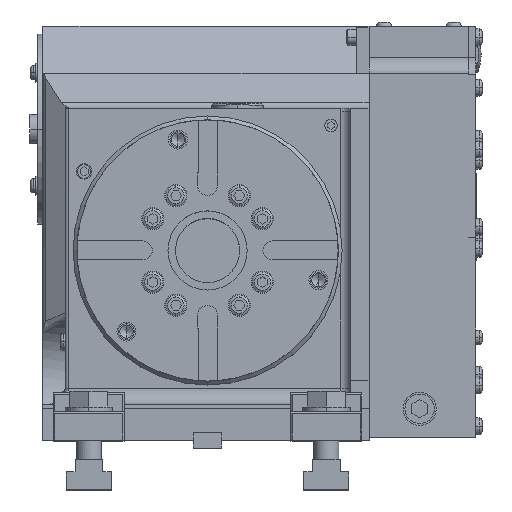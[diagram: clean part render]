
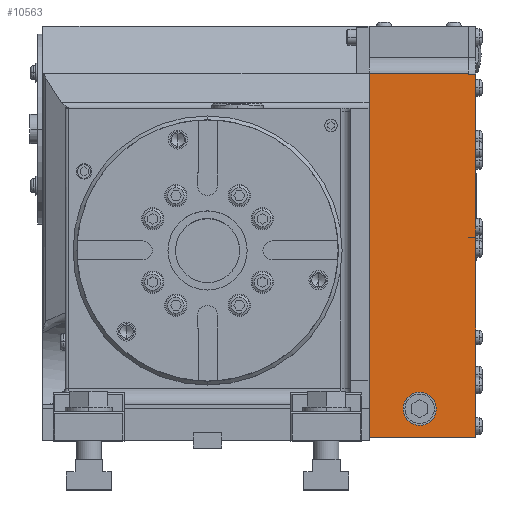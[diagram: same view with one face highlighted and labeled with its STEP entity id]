
A CAD part, top view. The second image highlights one B-rep face of the part: STEP entity #10563.
In plain terms, the highlighted planar face has unit normal (0, 0, 1) as drawn and (-1, 0, 0) by its records, which use the part's own axes.
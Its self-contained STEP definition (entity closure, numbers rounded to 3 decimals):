
#152 = DIRECTION ( 'NONE',  ( 0., 0., -1. ) ) ;
#240 = DIRECTION ( 'NONE',  ( 0., 0., -1. ) ) ;
#788 = DIRECTION ( 'NONE',  ( 0., -1., 0. ) ) ;
#1292 = DIRECTION ( 'NONE',  ( 0., -1., 0. ) ) ;
#1947 = VERTEX_POINT ( 'NONE', #65059 ) ;
#2117 = CARTESIAN_POINT ( 'NONE',  ( 0., 230., 63. ) ) ;
#3182 = EDGE_CURVE ( 'NONE', #46673, #73334, #80541, .T. ) ;
#3261 = VECTOR ( 'NONE', #28660, 1000. ) ;
#3974 = VERTEX_POINT ( 'NONE', #4523 ) ;
#4049 = DIRECTION ( 'NONE',  ( 0., -1., 0. ) ) ;
#4523 = CARTESIAN_POINT ( 'NONE',  ( 0., 7.522, 32. ) ) ;
#5673 = VERTEX_POINT ( 'NONE', #77223 ) ;
#6101 = CIRCLE ( 'NONE', #13848, 10.478 ) ;
#6579 = CARTESIAN_POINT ( 'NONE',  ( 0., 229., 67.5 ) ) ;
#7295 = VECTOR ( 'NONE', #82437, 1000. ) ;
#8398 = ORIENTED_EDGE ( 'NONE', *, *, #19177, .F. ) ;
#8683 = EDGE_CURVE ( 'NONE', #46673, #5673, #48647, .T. ) ;
#10354 = VECTOR ( 'NONE', #53273, 1000. ) ;
#10563 = ADVANCED_FACE ( 'NONE', ( #71804, #73954 ), #78452, .F. ) ;
#11609 = VERTEX_POINT ( 'NONE', #18242 ) ;
#11948 = CARTESIAN_POINT ( 'NONE',  ( 0., 18., 32. ) ) ;
#13059 = CARTESIAN_POINT ( 'NONE',  ( 0., 0., 63. ) ) ;
#13848 = AXIS2_PLACEMENT_3D ( 'NONE', #83763, #42366, #788 ) ;
#15802 = CARTESIAN_POINT ( 'NONE',  ( 0., 230., 63. ) ) ;
#15993 = EDGE_CURVE ( 'NONE', #3974, #85804, #6101, .T. ) ;
#16391 = EDGE_CURVE ( 'NONE', #30572, #49901, #47274, .T. ) ;
#16806 = VERTEX_POINT ( 'NONE', #50727 ) ;
#17242 = LINE ( 'NONE', #64139, #84344 ) ;
#17722 = LINE ( 'NONE', #42831, #70817 ) ;
#18242 = CARTESIAN_POINT ( 'NONE',  ( 0., 230., 0. ) ) ;
#19012 = DIRECTION ( 'NONE',  ( 0., -1., 0. ) ) ;
#19177 = EDGE_CURVE ( 'NONE', #85804, #3974, #77961, .T. ) ;
#19414 = CARTESIAN_POINT ( 'NONE',  ( 0., 0., 0. ) ) ;
#19507 = EDGE_CURVE ( 'NONE', #27289, #11609, #17242, .T. ) ;
#21742 = LINE ( 'NONE', #56285, #3261 ) ;
#23351 = EDGE_LOOP ( 'NONE', ( #40511, #71316, #71856, #29800, #40042, #80168, #25042, #57462, #23914, #58763 ) ) ;
#23914 = ORIENTED_EDGE ( 'NONE', *, *, #81055, .F. ) ;
#25042 = ORIENTED_EDGE ( 'NONE', *, *, #3182, .F. ) ;
#25572 = EDGE_CURVE ( 'NONE', #16806, #1947, #17722, .T. ) ;
#25800 = LINE ( 'NONE', #13059, #7295 ) ;
#26747 = EDGE_CURVE ( 'NONE', #11609, #77448, #21742, .T. ) ;
#27289 = VERTEX_POINT ( 'NONE', #36801 ) ;
#28053 = VECTOR ( 'NONE', #34274, 1000. ) ;
#28660 = DIRECTION ( 'NONE',  ( 0., -1., 0. ) ) ;
#29409 = EDGE_CURVE ( 'NONE', #49901, #77448, #25800, .T. ) ;
#29800 = ORIENTED_EDGE ( 'NONE', *, *, #77573, .T. ) ;
#30572 = VERTEX_POINT ( 'NONE', #54516 ) ;
#34274 = DIRECTION ( 'NONE',  ( 0., 0., -1. ) ) ;
#36625 = LINE ( 'NONE', #15802, #73460 ) ;
#36801 = CARTESIAN_POINT ( 'NONE',  ( 0., 230., 63. ) ) ;
#37018 = DIRECTION ( 'NONE',  ( 1., 0., 0. ) ) ;
#38635 = CARTESIAN_POINT ( 'NONE',  ( 0., 229., 67.5 ) ) ;
#39116 = AXIS2_PLACEMENT_3D ( 'NONE', #11948, #60554, #19012 ) ;
#40042 = ORIENTED_EDGE ( 'NONE', *, *, #25572, .F. ) ;
#40511 = ORIENTED_EDGE ( 'NONE', *, *, #26747, .T. ) ;
#41344 = AXIS2_PLACEMENT_3D ( 'NONE', #2117, #37018, #85375 ) ;
#41819 = CARTESIAN_POINT ( 'NONE',  ( 0., 126., 67.5 ) ) ;
#42366 = DIRECTION ( 'NONE',  ( -1., 0., 0. ) ) ;
#42831 = CARTESIAN_POINT ( 'NONE',  ( 0., 230., 63. ) ) ;
#43736 = VECTOR ( 'NONE', #4049, 1000. ) ;
#44860 = EDGE_LOOP ( 'NONE', ( #54876, #8398 ) ) ;
#45824 = CARTESIAN_POINT ( 'NONE',  ( 0., 126.5, 67.5 ) ) ;
#46673 = VERTEX_POINT ( 'NONE', #64812 ) ;
#47274 = LINE ( 'NONE', #80709, #10354 ) ;
#48647 = LINE ( 'NONE', #6579, #28053 ) ;
#48652 = CARTESIAN_POINT ( 'NONE',  ( 0., 126.5, 67.5 ) ) ;
#49901 = VERTEX_POINT ( 'NONE', #53148 ) ;
#50727 = CARTESIAN_POINT ( 'NONE',  ( 0., 126.5, 63. ) ) ;
#52864 = VECTOR ( 'NONE', #240, 1000. ) ;
#53148 = CARTESIAN_POINT ( 'NONE',  ( 0., 0., 67.5 ) ) ;
#53273 = DIRECTION ( 'NONE',  ( 0., -1., 0. ) ) ;
#54516 = CARTESIAN_POINT ( 'NONE',  ( 0., 126., 67.5 ) ) ;
#54876 = ORIENTED_EDGE ( 'NONE', *, *, #15993, .F. ) ;
#56285 = CARTESIAN_POINT ( 'NONE',  ( 0., 230., 0. ) ) ;
#57152 = DIRECTION ( 'NONE',  ( 0., 0., -1. ) ) ;
#57462 = ORIENTED_EDGE ( 'NONE', *, *, #8683, .T. ) ;
#58763 = ORIENTED_EDGE ( 'NONE', *, *, #19507, .T. ) ;
#60554 = DIRECTION ( 'NONE',  ( -1., 0., 0. ) ) ;
#63484 = CARTESIAN_POINT ( 'NONE',  ( 0., 28.477, 32. ) ) ;
#64139 = CARTESIAN_POINT ( 'NONE',  ( 0., 230., 63. ) ) ;
#64812 = CARTESIAN_POINT ( 'NONE',  ( 0., 229., 67.5 ) ) ;
#65059 = CARTESIAN_POINT ( 'NONE',  ( 0., 126., 63. ) ) ;
#70817 = VECTOR ( 'NONE', #1292, 1000. ) ;
#71229 = LINE ( 'NONE', #41819, #52864 ) ;
#71275 = DIRECTION ( 'NONE',  ( 0., -1., 0. ) ) ;
#71316 = ORIENTED_EDGE ( 'NONE', *, *, #29409, .F. ) ;
#71804 = FACE_BOUND ( 'NONE', #44860, .T. ) ;
#71856 = ORIENTED_EDGE ( 'NONE', *, *, #16391, .F. ) ;
#73334 = VERTEX_POINT ( 'NONE', #45824 ) ;
#73460 = VECTOR ( 'NONE', #71275, 1000. ) ;
#73626 = VECTOR ( 'NONE', #152, 1000. ) ;
#73954 = FACE_OUTER_BOUND ( 'NONE', #23351, .T. ) ;
#75778 = LINE ( 'NONE', #48652, #73626 ) ;
#77223 = CARTESIAN_POINT ( 'NONE',  ( 0., 229., 63. ) ) ;
#77448 = VERTEX_POINT ( 'NONE', #19414 ) ;
#77573 = EDGE_CURVE ( 'NONE', #30572, #1947, #71229, .T. ) ;
#77961 = CIRCLE ( 'NONE', #39116, 10.478 ) ;
#78452 = PLANE ( 'NONE',  #41344 ) ;
#80168 = ORIENTED_EDGE ( 'NONE', *, *, #80256, .F. ) ;
#80256 = EDGE_CURVE ( 'NONE', #73334, #16806, #75778, .T. ) ;
#80541 = LINE ( 'NONE', #38635, #43736 ) ;
#80709 = CARTESIAN_POINT ( 'NONE',  ( 0., 126., 67.5 ) ) ;
#81055 = EDGE_CURVE ( 'NONE', #27289, #5673, #36625, .T. ) ;
#82437 = DIRECTION ( 'NONE',  ( 0., 0., -1. ) ) ;
#83763 = CARTESIAN_POINT ( 'NONE',  ( 0., 18., 32. ) ) ;
#84344 = VECTOR ( 'NONE', #57152, 1000. ) ;
#85375 = DIRECTION ( 'NONE',  ( 0., 1., 0. ) ) ;
#85804 = VERTEX_POINT ( 'NONE', #63484 ) ;
